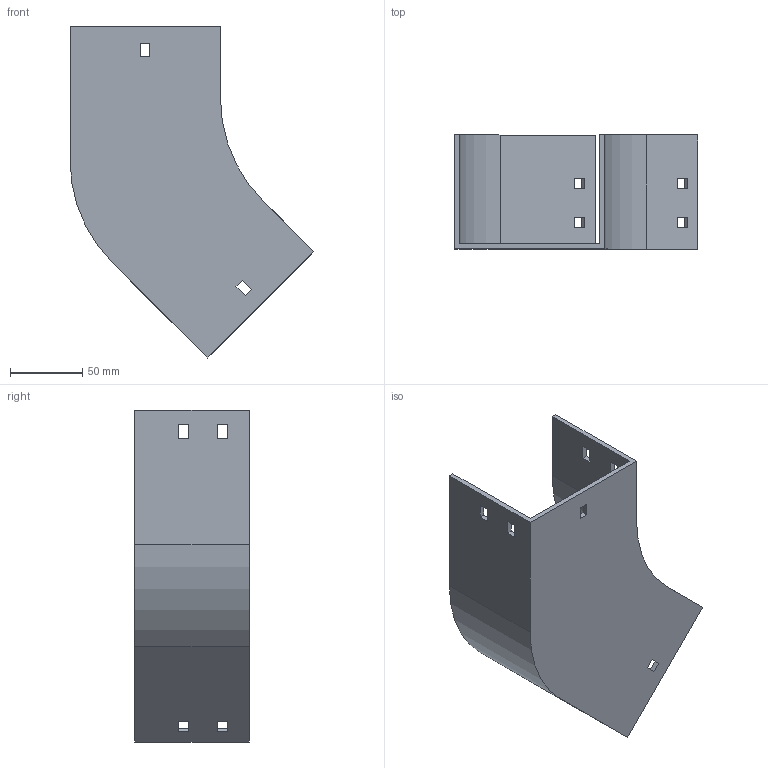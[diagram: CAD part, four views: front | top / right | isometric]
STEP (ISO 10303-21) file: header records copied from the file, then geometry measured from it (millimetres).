
FILE_DESCRIPTION (( 'STEP AP214' ), '1' );
FILE_NAME ('11B1C100.step', '2025-02-21T09:38:33', ( '' ), ( '' ), 'SwSTEP 2.0', 'SolidWorks 2023', '' );
FILE_SCHEMA (( 'AUTOMOTIVE_DESIGN' ));
Length unit declared in the file: millimetre
Products named in the file (1): 11B1C100
Bounding box: 168.64 x 79 x 229.61 mm (x, y, z)
Volume: 196990.8 mm3; surface area: 117071.5 mm2
Topology: 1 solids, 1 shells, 58 faces, 168 edges, 112 vertices
Faces by surface type: plane 54, cylinder 4
Entity records: 1943 total; most frequent: CARTESIAN_POINT 339, ORIENTED_EDGE 336, DIRECTION 294, EDGE_CURVE 168, LINE 160, VECTOR 160, VERTEX_POINT 112, EDGE_LOOP 78
